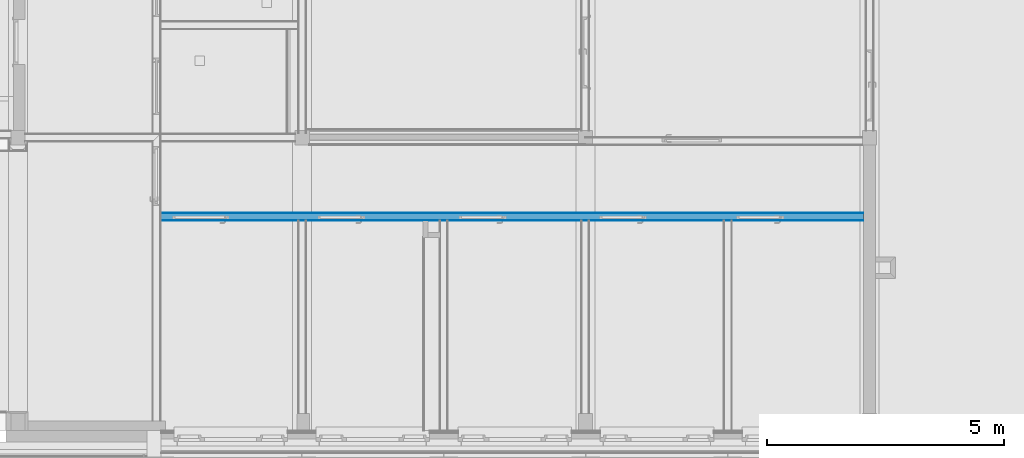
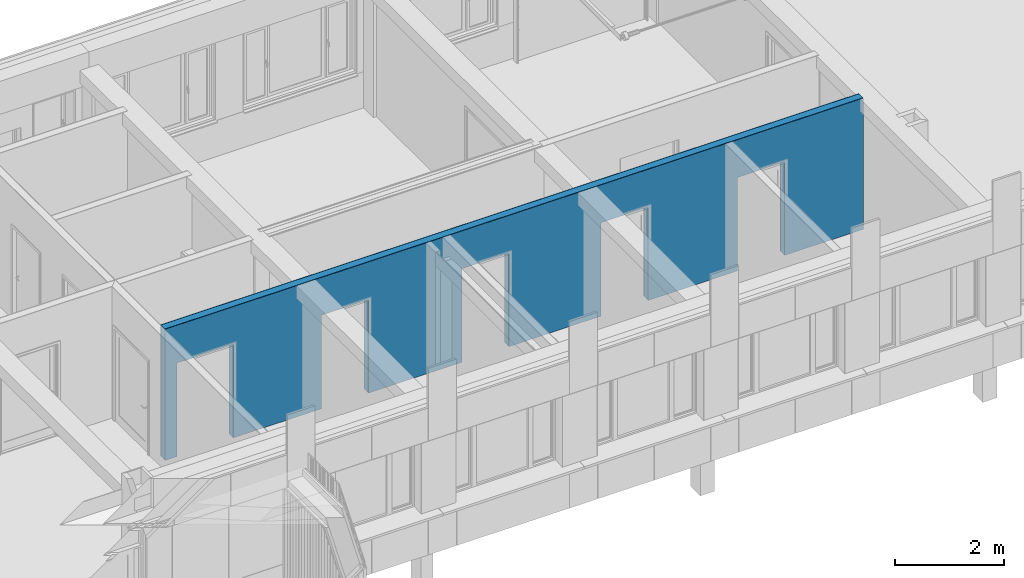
# One storey, part 43 of 418: 3 building element parts, 5 openings, 1 element without a shape of its own.
"""IFC2X3 building model written with IfcOpenShell, lengths in millimetres."""

from ifc_helpers import new_model, entity, si_unit, converted_unit, derived_unit, money_unit, direction, frame, origin_with_axes, origin_2d_with_axis, place, context, subcontext, project, spatial, polyline, rectangle, outline, extrude, material, type_object, element, aggregate, save


model = new_model("IFC2X3")

# Units and contexts
model_context = context("Model", 3, precision=0.01, world=origin_with_axes(), true_north=direction((0.0, 1.0)))
body_context = subcontext(model_context, "Body", "Model", "MODEL_VIEW")
ifc_project = project(units=[si_unit("LENGTHUNIT", "METRE", prefix="MILLI"), si_unit("AREAUNIT", "SQUARE_METRE"), si_unit("VOLUMEUNIT", "CUBIC_METRE"), converted_unit("PLANEANGLEUNIT", "DEGREE", entity("IfcPlaneAngleMeasure", 0.0174532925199), si_unit("PLANEANGLEUNIT", "RADIAN"), dimensions=[0, 0, 0, 0, 0, 0, 0]), si_unit("SOLIDANGLEUNIT", "STERADIAN"), money_unit("EUR"), converted_unit("TIMEUNIT", "Year", entity("IfcTimeMeasure", 31556926.0), si_unit("TIMEUNIT", "SECOND"), dimensions=[0, 0, 1, 0, 0, 0, 0]), si_unit("MASSUNIT", "GRAM", prefix="KILO"), si_unit("THERMODYNAMICTEMPERATUREUNIT", "DEGREE_CELSIUS"), si_unit("LUMINOUSINTENSITYUNIT", "LUMEN"), si_unit("ENERGYUNIT", "JOULE", prefix="MEGA"), derived_unit("THERMALCONDUCTANCEUNIT", [(si_unit("POWERUNIT", "WATT"), 1), (si_unit("LENGTHUNIT", "METRE"), -1), (si_unit("THERMODYNAMICTEMPERATUREUNIT", "KELVIN"), -1)]), derived_unit("SPECIFICHEATCAPACITYUNIT", [(si_unit("ENERGYUNIT", "JOULE"), 1), (si_unit("MASSUNIT", "GRAM", prefix="KILO"), -1), (si_unit("THERMODYNAMICTEMPERATUREUNIT", "KELVIN"), -1)]), derived_unit("MASSDENSITYUNIT", [(si_unit("MASSUNIT", "GRAM", prefix="KILO"), 1), (si_unit("VOLUMEUNIT", "CUBIC_METRE"), -1)])], contexts=[model_context])

# Site, building, storey
site_placement = place(None, origin_with_axes())
site = spatial("IfcSite", under=ifc_project, at=site_placement, Name="Paldiski mnt 245/1, Tallinn, Harjumaa", CompositionType="COMPLEX")
building_placement = place(site_placement, origin_with_axes())
building = spatial("IfcBuilding", under=site, at=building_placement, Name="RKAS Hoone üldnimetus (kasutust iseloomustav) -> IFC Project Manager -> SOLIBRI", CompositionType="ELEMENT")
storey_placement = place(building_placement, origin_with_axes())
storey = spatial("IfcBuildingStorey", under=building, at=storey_placement, Name="Esimene korrus", CompositionType="ELEMENT", Elevation=0.0)

# Wall, openings, building element parts
wall_type = type_object("IfcWallType", Name="SS-04 170", PredefinedType="NOTDEFINED")
wall_placement = place(storey_placement, frame((-23340.0, -8085.0, 0.0), z_axis=(0.0, 0.0, 1.0), x_axis=(-1.0, 0.0, 0.0)))
wall = element("IfcWall", 1, at=wall_placement, inside=storey, type_object=wall_type, Name="SS-04")
opening_1_placement = place(wall_placement, frame((14240.0000894, 0.0, 0.0), z_axis=(0.0, 0.0, 1.0), x_axis=(1.0, 0.0, 0.0)))
element("IfcOpeningElement", 2, at=opening_1_placement, cuts=wall, Name="SU-01v", context=body_context, shape_type="SweptSolid", body=[
    extrude(rectangle(XDim=1200.0, YDim=2100.0, at=origin_2d_with_axis()), frame((0.0, -105.0, 1050.0), z_axis=(0.0, -1.0, 0.0), x_axis=(1.0, 0.0, 0.0)), (0.0, 0.0, -1.0), 275.0),
    extrude(rectangle(XDim=1200.0, YDim=2100.0, at=origin_2d_with_axis()), frame((0.0, -105.0, 1050.0), z_axis=(0.0, 1.0, 0.0), x_axis=(1.0, 0.0, 0.0)), (0.0, 0.0, -1.0), 235.0),
    extrude(rectangle(XDim=1314.0, YDim=2157.0, at=origin_2d_with_axis()), frame((0.0, 0.0, 1078.5), z_axis=(0.0, -1.0, 0.0), x_axis=(1.0, 0.0, 0.0)), (0.0, 0.0, -1.0), 235.0),
])
opening_2_placement = place(wall_placement, frame((11270.0, 0.0, 0.0), z_axis=(0.0, 0.0, 1.0), x_axis=(1.0, 0.0, 0.0)))
element("IfcOpeningElement", 3, at=opening_2_placement, cuts=wall, Name="SU-02v", context=body_context, shape_type="SweptSolid", body=[
    extrude(rectangle(XDim=1000.0, YDim=2100.0, at=origin_2d_with_axis()), frame((0.0, -105.0, 1050.0), z_axis=(0.0, -1.0, 0.0), x_axis=(1.0, 0.0, 0.0)), (0.0, 0.0, -1.0), 275.0),
    extrude(rectangle(XDim=1000.0, YDim=2100.0, at=origin_2d_with_axis()), frame((0.0, -105.0, 1050.0), z_axis=(0.0, 1.0, 0.0), x_axis=(1.0, 0.0, 0.0)), (0.0, 0.0, -1.0), 235.0),
    extrude(rectangle(XDim=1114.0, YDim=2157.0, at=origin_2d_with_axis()), frame((0.0, 0.0, 1078.5), z_axis=(0.0, -1.0, 0.0), x_axis=(1.0, 0.0, 0.0)), (0.0, 0.0, -1.0), 235.0),
])
opening_3_placement = place(wall_placement, frame((8285.0, 0.0, 0.0), z_axis=(0.0, 0.0, 1.0), x_axis=(1.0, 0.0, 0.0)))
element("IfcOpeningElement", 4, at=opening_3_placement, cuts=wall, Name="SU-02v", context=body_context, shape_type="SweptSolid", body=[
    extrude(rectangle(XDim=1000.0, YDim=2100.0, at=origin_2d_with_axis()), frame((0.0, -105.0, 1050.0), z_axis=(0.0, -1.0, 0.0), x_axis=(1.0, 0.0, 0.0)), (0.0, 0.0, -1.0), 275.0),
    extrude(rectangle(XDim=1000.0, YDim=2100.0, at=origin_2d_with_axis()), frame((0.0, -105.0, 1050.0), z_axis=(0.0, 1.0, 0.0), x_axis=(1.0, 0.0, 0.0)), (0.0, 0.0, -1.0), 235.0),
    extrude(rectangle(XDim=1114.0, YDim=2157.0, at=origin_2d_with_axis()), frame((0.0, 0.0, 1078.5), z_axis=(0.0, -1.0, 0.0), x_axis=(1.0, 0.0, 0.0)), (0.0, 0.0, -1.0), 235.0),
])
opening_4_placement = place(wall_placement, frame((5324.95524486, 0.0, 0.0), z_axis=(0.0, 0.0, 1.0), x_axis=(1.0, 0.0, 0.0)))
element("IfcOpeningElement", 5, at=opening_4_placement, cuts=wall, Name="SU-02v", context=body_context, shape_type="SweptSolid", body=[
    extrude(rectangle(XDim=1000.0, YDim=2100.0, at=origin_2d_with_axis()), frame((0.0, -105.0, 1050.0), z_axis=(0.0, -1.0, 0.0), x_axis=(1.0, 0.0, 0.0)), (0.0, 0.0, -1.0), 275.0),
    extrude(rectangle(XDim=1000.0, YDim=2100.0, at=origin_2d_with_axis()), frame((0.0, -105.0, 1050.0), z_axis=(0.0, 1.0, 0.0), x_axis=(1.0, 0.0, 0.0)), (0.0, 0.0, -1.0), 235.0),
    extrude(rectangle(XDim=1114.0, YDim=2157.0, at=origin_2d_with_axis()), frame((0.0, 0.0, 1078.5), z_axis=(0.0, -1.0, 0.0), x_axis=(1.0, 0.0, 0.0)), (0.0, 0.0, -1.0), 235.0),
])
opening_5_placement = place(wall_placement, frame((2424.96900589, 0.0, 0.0), z_axis=(0.0, 0.0, 1.0), x_axis=(1.0, 0.0, 0.0)))
element("IfcOpeningElement", 6, at=opening_5_placement, cuts=wall, Name="SU-02v", context=body_context, shape_type="SweptSolid", body=[
    extrude(rectangle(XDim=1000.0, YDim=2100.0, at=origin_2d_with_axis()), frame((0.0, -105.0, 1050.0), z_axis=(0.0, -1.0, 0.0), x_axis=(1.0, 0.0, 0.0)), (0.0, 0.0, -1.0), 275.0),
    extrude(rectangle(XDim=1000.0, YDim=2100.0, at=origin_2d_with_axis()), frame((0.0, -105.0, 1050.0), z_axis=(0.0, 1.0, 0.0), x_axis=(1.0, 0.0, 0.0)), (0.0, 0.0, -1.0), 235.0),
    extrude(rectangle(XDim=1114.0, YDim=2157.0, at=origin_2d_with_axis()), frame((0.0, 0.0, 1078.5), z_axis=(0.0, -1.0, 0.0), x_axis=(1.0, 0.0, 0.0)), (0.0, 0.0, -1.0), 235.0),
])
ifc_material_1 = material(Name="Krohv")
building_element_part_1_placement = place(wall_placement, origin_with_axes())
building_element_part_1 = element("IfcBuildingElementPart", 7, at=building_element_part_1_placement, material=ifc_material_1, Name="Krohv", context=body_context, shape_type="SweptSolid", body=[
    extrude(outline(polyline([(250.0, -10.0), (15090.0000894, -10.0), (15090.0000894, 0.0), (250.0, 0.0), (250.0, -10.0)])), origin_with_axes(), (0.0, 0.0, 1.0), 2950.0),
])
ifc_material_2 = material(Name="FIBO 5")
building_element_part_2_placement = place(wall_placement, origin_with_axes())
building_element_part_2 = element("IfcBuildingElementPart", 8, at=building_element_part_2_placement, material=ifc_material_2, Name="FIBO 5", context=body_context, shape_type="SweptSolid", body=[
    extrude(outline(polyline([(250.0, -160.0), (15090.0000894, -160.0), (15090.0000894, -10.0), (250.0, -10.0), (250.0, -160.0)])), origin_with_axes(), (0.0, 0.0, 1.0), 2950.0),
])
building_element_part_3_placement = place(wall_placement, origin_with_axes())
building_element_part_3 = element("IfcBuildingElementPart", 9, at=building_element_part_3_placement, material=ifc_material_1, Name="Krohv", context=body_context, shape_type="SweptSolid", body=[
    extrude(outline(polyline([(250.0, -170.0), (15090.0000894, -170.0), (15090.0000894, -160.0), (250.0, -160.0), (250.0, -170.0)])), origin_with_axes(), (0.0, 0.0, 1.0), 2950.0),
])
aggregate(wall, [building_element_part_1, building_element_part_2, building_element_part_3])

save(model, "model.ifc")
